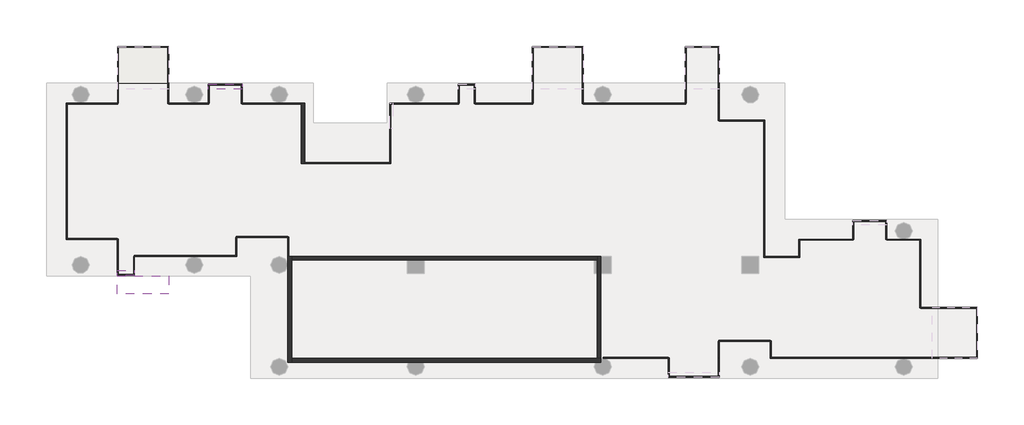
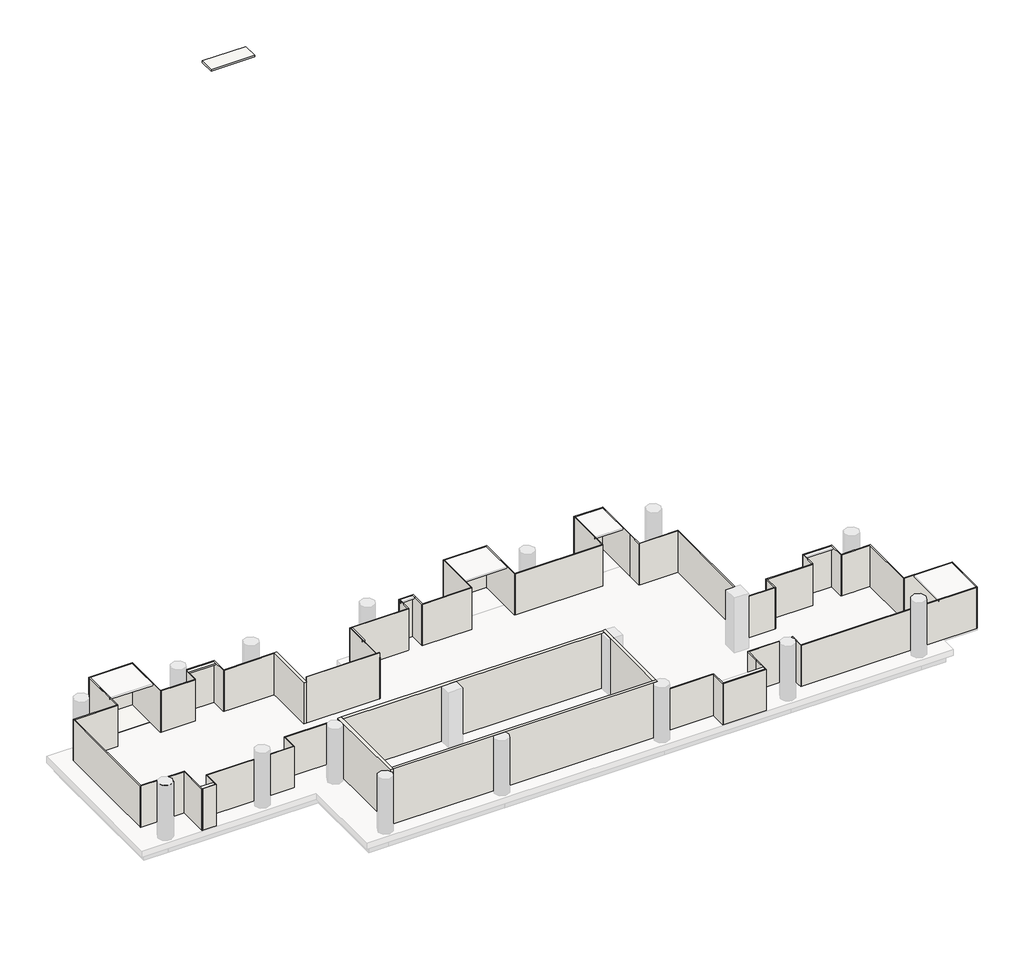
# One storey, part 1 of 2: 58 walls, 7 slabs.
"""IFC4 building model written with IfcOpenShell, lengths in millimetres."""

from ifc_helpers import new_model, si_unit, frame, origin, place, context, project, spatial, polyline, outline, extrude, faceted_brep, element, save

model = new_model("IFC4")

# Units and contexts
model_context = context("Model", 3, world=origin())
ifc_project = project(units=[si_unit("LENGTHUNIT", "METRE", prefix="MILLI")], contexts=[model_context])

# Site, building, storey
site = spatial("IfcSite", under=ifc_project)
building = spatial("IfcBuilding", under=site)
storey = spatial("IfcBuildingStorey", under=building, Name="TW-L 04", Elevation=13599.9999686)

# Slabs
placement = place(None, origin())
element("IfcSlab", 1, ObjectType="AJN-ARC-SLAB-10cm", at=placement, inside=storey, context=model_context, shape_type="SweptSolid", body=[
    extrude(outline(polyline([(106750.0, 39900.0), (104050.0, 39900.0), (104050.0, 41850.0), (106750.0, 41850.0), (106750.0, 39900.0)])), frame((0.0, 0.0, 13499.9999686), z_axis=(0.0, 0.0, 1.0), x_axis=(1.0, 0.0, 0.0)), (0.0, 0.0, 1.0), 100.0),
])
element("IfcSlab", 2, ObjectType="AJN-ARC-SLAB-10cm", at=placement, inside=storey, context=model_context, shape_type="SweptSolid", body=[
    extrude(outline(polyline([(106750.0, 39900.0), (104050.0, 39900.0), (104050.0, 41850.0), (106750.0, 41850.0), (106750.0, 39900.0)])), frame((0.0, 0.0, 13499.9999686), z_axis=(0.0, 0.0, 1.0), x_axis=(1.0, 0.0, 0.0)), (0.0, 0.0, 1.0), 100.0),
])
element("IfcSlab", 3, ObjectType="AJN-ARC-SLAB-10cm", at=placement, inside=storey, context=model_context, shape_type="SweptSolid", body=[
    extrude(outline(polyline([(106750.0, 39900.0), (104050.0, 39900.0), (104050.0, 41850.0), (106750.0, 41850.0), (106750.0, 39900.0)])), frame((0.0, 0.0, 13499.9999686), z_axis=(0.0, 0.0, 1.0), x_axis=(1.0, 0.0, 0.0)), (0.0, 0.0, 1.0), 100.0),
])
element("IfcSlab", 4, ObjectType="AJN-ARC-SLAB-10cm", at=placement, inside=storey, context=model_context, shape_type="SweptSolid", body=[
    extrude(outline(polyline([(106750.0, 39900.0), (104050.0, 39900.0), (104050.0, 41850.0), (106750.0, 41850.0), (106750.0, 39900.0)])), frame((0.0, 0.0, 13499.9999686), z_axis=(0.0, 0.0, 1.0), x_axis=(1.0, 0.0, 0.0)), (0.0, 0.0, 1.0), 100.0),
])
element("IfcSlab", 5, ObjectType="AJN-ARC-SLAB-10cm", at=placement, inside=storey, context=model_context, shape_type="SweptSolid", body=[
    extrude(outline(polyline([(104947.1743518, 29750.0), (104047.1743518, 29750.0), (104047.1743518, 30000.0), (104947.1743518, 30000.0), (104947.1743518, 29750.0)])), frame((0.0, 0.0, 16199.9999686), z_axis=(0.0, 0.0, 1.0), x_axis=(1.0, 0.0, 0.0)), (0.0, 0.0, 1.0), 100.0),
])
element("IfcSlab", 6, ObjectType="AJN-ARC-SLAB-10cm", at=placement, inside=storey, context=model_context, shape_type="SweptSolid", body=[
    extrude(outline(polyline([(110650.0, 39600.0), (108850.0, 39600.0), (108850.0, 39850.0), (110650.0, 39850.0), (110650.0, 39600.0)])), frame((0.0, 0.0, 16199.9999686), z_axis=(0.0, 0.0, 1.0), x_axis=(1.0, 0.0, 0.0)), (0.0, 0.0, 1.0), 100.0),
])
element("IfcSlab", 7, ObjectType="AJN-ARC-SLAB-10cm", at=placement, inside=storey, context=model_context, shape_type="SweptSolid", body=[
    extrude(outline(polyline([(106747.1743518, 28750.0), (104047.1743518, 28750.0), (104047.1743518, 29700.0), (106747.1743518, 29700.0), (106747.1743518, 28750.0)])), frame((0.0, 0.0, 63900.0), z_axis=(0.0, 0.0, 1.0), x_axis=(1.0, 0.0, 0.0)), (0.0, 0.0, 1.0), 100.0),
])

# Walls
element("IfcWall", 8, ObjectType="AJN-ARC-CONCRETE WALL-20cm", at=placement, inside=storey, context=model_context, shape_type="Brep", body=[
    faceted_brep([(113050.0, 30750.0, 17199.9999686), (113050.0, 30750.0, 13599.9999686), (113050.0, 25150.0, 13599.9999686), (113050.0, 25150.0, 17199.9999686), (113250.0, 30750.0, 13599.9999686), (113250.0, 30750.0, 17199.9999686), (113250.0, 30550.0, 17199.9999686), (113250.0, 25350.0, 17199.9999686), (113250.0, 25150.0, 17199.9999686), (113250.0, 25150.0, 13599.9999686), (113250.0, 25350.0, 13599.9999686), (113250.0, 30550.0, 13599.9999686), (113097.1743518, 30750.0, 13599.9999686)], [[[0, 1, 2, 3]], [[4, 5, 6, 7, 8, 9, 10, 11]], [[2, 1, 12, 4, 11, 10, 9]], [[0, 3, 8, 7, 6, 5]], [[3, 2, 9, 8]], [[0, 5, 4, 12, 1]]]),
])
element("IfcWall", 9, ObjectType="AJN-ARC-CONCRETE WALL-20cm", at=placement, inside=storey, context=model_context, shape_type="Brep", body=[
    faceted_brep([(113250.0, 25150.0, 13599.9999686), (119425.8342613, 25150.0, 13599.9999686), (120174.1657387, 25150.0, 13599.9999686), (129325.8342613, 25150.0, 13599.9999686), (129600.0, 25150.0, 13599.9999686), (129600.0, 25150.0, 17199.9999686), (129325.8342613, 25150.0, 17199.9999686), (120174.1657387, 25150.0, 17199.9999686), (119425.8342613, 25150.0, 17199.9999686), (113250.0, 25150.0, 17199.9999686), (113250.0, 25350.0, 13599.9999686), (113250.0, 25350.0, 17199.9999686), (129400.0, 25350.0, 17199.9999686), (129600.0, 25350.0, 17199.9999686), (129600.0, 25350.0, 13599.9999686), (129400.0, 25350.0, 13599.9999686), (129600.0, 25338.7482194, 13599.9999686), (129600.0, 25338.7482194, 17199.9999686)], [[[0, 1, 2, 3, 4, 5, 6, 7, 8, 9]], [[10, 11, 12, 13, 14, 15]], [[4, 3, 2, 1, 0, 10, 15, 14, 16]], [[9, 8, 7, 6, 5, 17, 13, 12, 11]], [[5, 4, 16, 14, 13, 17]], [[0, 9, 11, 10]]]),
])
element("IfcWall", 10, ObjectType="AJN-ARC-CONCRETE WALL-20cm", at=placement, inside=storey, context=model_context, shape_type="Brep", body=[
    faceted_brep([(129600.0, 25350.0, 13599.9999686), (129600.0, 29850.0, 13599.9999686), (129600.0, 30750.0, 13599.9999686), (129600.0, 30750.0, 17199.9999686), (129600.0, 29850.0, 17199.9999686), (129600.0, 25350.0, 17199.9999686), (129400.0, 25350.0, 13599.9999686), (129400.0, 25350.0, 17199.9999686), (129400.0, 29850.0, 17199.9999686), (129400.0, 30550.0, 17199.9999686), (129400.0, 30750.0, 17199.9999686), (129400.0, 30750.0, 13599.9999686), (129400.0, 30550.0, 13599.9999686), (129400.0, 29850.0, 13599.9999686)], [[[0, 1, 2, 3, 4, 5]], [[6, 7, 8, 9, 10, 11, 12, 13]], [[2, 1, 0, 6, 13, 12, 11]], [[5, 4, 3, 10, 9, 8, 7]], [[3, 2, 11, 10]], [[0, 5, 7, 6]]]),
])
element("IfcWall", 11, ObjectType="AJN-ARC-CONCRETE WALL-20cm", at=placement, inside=storey, context=model_context, shape_type="Brep", body=[
    faceted_brep([(129400.0, 30750.0, 13599.9999686), (113250.0, 30750.0, 13599.9999686), (113250.0, 30750.0, 17199.9999686), (129400.0, 30750.0, 17199.9999686), (129400.0, 30550.0, 13599.9999686), (129400.0, 30550.0, 17199.9999686), (129250.0, 30550.0, 17199.9999686), (120250.0, 30550.0, 17199.9999686), (119350.0, 30550.0, 17199.9999686), (113250.0, 30550.0, 17199.9999686), (113250.0, 30550.0, 13599.9999686), (119350.0, 30550.0, 13599.9999686), (120250.0, 30550.0, 13599.9999686), (129250.0, 30550.0, 13599.9999686)], [[[0, 1, 2, 3]], [[4, 5, 6, 7, 8, 9, 10, 11, 12, 13]], [[1, 0, 4, 13, 12, 11, 10]], [[3, 2, 9, 8, 7, 6, 5]], [[0, 3, 5, 4]], [[1, 10, 9, 2]]]),
])
element("IfcWall", 12, ObjectType="AJN-ARC-CONCRETE WALL-20cm", at=placement, inside=storey, context=model_context, shape_type="Brep", body=[
    faceted_brep([(113950.0, 35650.0, 13599.9999686), (113950.0, 38850.001152, 13599.9999686), (113950.0, 38850.001152, 16299.9999686), (113950.0, 35650.0, 16299.9999686), (113750.0, 35650.0, 13599.9999686), (113750.0, 35650.0, 16299.9999686), (113750.0, 38800.0010821, 16299.9999686), (113750.0, 38850.0010821, 16299.9999686), (113750.0, 38850.0010821, 13599.9999686), (113750.0, 38800.0010821, 13599.9999686)], [[[0, 1, 2, 3]], [[4, 5, 6, 7, 8, 9]], [[1, 0, 4, 9, 8]], [[3, 2, 7, 6, 5]], [[0, 3, 5, 4]], [[2, 1, 8, 7]]]),
])
element("IfcWall", 13, ObjectType="AJN-ARC-GLASS-50mm", at=placement, inside=storey, context=model_context, shape_type="SweptSolid", body=[
    extrude(outline(polyline([(110650.0, 38850.0), (113750.0, 38850.0010821), (113750.0, 38800.0010821), (110650.0000175, 38800.0), (110650.0, 38850.0)])), frame((0.0, 0.0, 13599.9999686), z_axis=(0.0, 0.0, 1.0), x_axis=(1.0, 0.0, 0.0)), (0.0, 0.0, 1.0), 2700.0),
])
element("IfcWall", 14, ObjectType="AJN-ARC-GLASS-50mm", at=placement, inside=storey, context=model_context, shape_type="Brep", body=[
    faceted_brep([(110650.0, 38824.9999913, 13599.9999686), (110650.0, 39850.0, 13599.9999686), (110650.0, 39850.0, 16299.9999686), (110650.0, 38824.9999913, 16299.9999686), (110600.0, 38824.9999913, 13599.9999686), (110600.0, 38824.9999913, 16299.9999686), (110600.0, 39800.0, 16299.9999686), (110600.0, 39850.0, 16299.9999686), (110600.0, 39850.0, 13599.9999686), (110600.0, 39800.0, 13599.9999686)], [[[0, 1, 2, 3]], [[4, 5, 6, 7, 8, 9]], [[1, 0, 4, 9, 8]], [[3, 2, 7, 6, 5]], [[0, 3, 5, 4]], [[2, 1, 8, 7]]]),
])
element("IfcWall", 15, ObjectType="AJN-ARC-GLASS-50mm", at=placement, inside=storey, context=model_context, shape_type="Brep", body=[
    faceted_brep([(110600.0, 39850.0, 13599.9999686), (108850.0, 39850.0, 13599.9999686), (108850.0, 39850.0, 16299.9999686), (110600.0, 39850.0, 16299.9999686), (110600.0, 39800.0, 13599.9999686), (110600.0, 39800.0, 16299.9999686), (108900.0, 39800.0, 16299.9999686), (108850.0, 39800.0, 16299.9999686), (108850.0, 39800.0, 13599.9999686), (108900.0, 39800.0, 13599.9999686)], [[[0, 1, 2, 3]], [[4, 5, 6, 7, 8, 9]], [[1, 0, 4, 9, 8]], [[3, 2, 7, 6, 5]], [[2, 1, 8, 7]], [[0, 3, 5, 4]]]),
])
element("IfcWall", 16, ObjectType="AJN-ARC-GLASS-50mm", at=placement, inside=storey, context=model_context, shape_type="SweptSolid", body=[
    extrude(outline(polyline([(108850.0, 38850.0), (108850.0, 39800.0), (108900.0, 39800.0), (108900.0, 38850.0), (108850.0, 38850.0)])), frame((0.0, 0.0, 13599.9999686), z_axis=(0.0, 0.0, 1.0), x_axis=(1.0, 0.0, 0.0)), (0.0, 0.0, 1.0), 2700.0),
])
element("IfcWall", 17, ObjectType="AJN-ARC-GLASS-50mm", at=placement, inside=storey, context=model_context, shape_type="SweptSolid", body=[
    extrude(outline(polyline([(106750.0, 38850.0), (108875.0, 38850.0), (108875.0, 38800.0), (106750.0, 38800.0), (106750.0, 38850.0)])), frame((0.0, 0.0, 13599.9999686), z_axis=(0.0, 0.0, 1.0), x_axis=(1.0, 0.0, 0.0)), (0.0, 0.0, 1.0), 2700.0),
])
element("IfcWall", 18, ObjectType="AJN-ARC-GLASS-50mm", at=placement, inside=storey, context=model_context, shape_type="Brep", body=[
    faceted_brep([(106750.0, 38825.0, 13599.9999686), (106750.0, 41850.0, 13599.9999686), (106750.0, 41850.0, 16299.9999686), (106750.0, 38825.0, 16299.9999686), (106700.0, 38825.0, 13599.9999686), (106700.0, 38825.0, 16299.9999686), (106700.0, 41800.0, 16299.9999686), (106700.0, 41850.0, 16299.9999686), (106700.0, 41850.0, 13599.9999686), (106700.0, 41800.0, 13599.9999686)], [[[0, 1, 2, 3]], [[4, 5, 6, 7, 8, 9]], [[1, 0, 4, 9, 8]], [[3, 2, 7, 6, 5]], [[0, 3, 5, 4]], [[2, 1, 8, 7]]]),
])
element("IfcWall", 19, ObjectType="AJN-ARC-GLASS-50mm", at=placement, inside=storey, context=model_context, shape_type="Brep", body=[
    faceted_brep([(106700.0, 41850.0, 13599.9999686), (104050.0, 41850.0, 13599.9999686), (104050.0, 41850.0, 16299.9999686), (106700.0, 41850.0, 16299.9999686), (106700.0, 41800.0, 13599.9999686), (106700.0, 41800.0, 16299.9999686), (104100.0, 41800.0, 16299.9999686), (104050.0, 41800.0, 16299.9999686), (104050.0, 41800.0, 13599.9999686), (104100.0, 41800.0, 13599.9999686)], [[[0, 1, 2, 3]], [[4, 5, 6, 7, 8, 9]], [[1, 0, 4, 9, 8]], [[3, 2, 7, 6, 5]], [[2, 1, 8, 7]], [[0, 3, 5, 4]]]),
])
element("IfcWall", 20, ObjectType="AJN-ARC-GLASS-50mm", at=placement, inside=storey, context=model_context, shape_type="SweptSolid", body=[
    extrude(outline(polyline([(104050.0, 38850.0), (104050.0, 41800.0), (104100.0, 41800.0), (104100.0, 38850.0), (104050.0, 38850.0)])), frame((0.0, 0.0, 13599.9999686), z_axis=(0.0, 0.0, 1.0), x_axis=(1.0, 0.0, 0.0)), (0.0, 0.0, 1.0), 2700.0),
])
element("IfcWall", 21, ObjectType="AJN-ARC-GLASS-50mm", at=placement, inside=storey, context=model_context, shape_type="Brep", body=[
    faceted_brep([(104075.0000107, 38849.9999893, 13599.9999686), (101347.1743518, 38850.001152, 13599.9999686), (101347.1743518, 38850.001152, 16299.9999686), (104075.0000107, 38849.9999893, 16299.9999686), (104074.9999893, 38799.9999893, 13599.9999686), (104074.9999893, 38799.9999893, 16299.9999686), (101397.1743518, 38800.0011307, 16299.9999686), (101347.1743518, 38800.001152, 16299.9999686), (101347.1743518, 38800.001152, 13599.9999686), (101397.1743518, 38800.0011307, 13599.9999686)], [[[0, 1, 2, 3]], [[4, 5, 6, 7, 8, 9]], [[1, 0, 4, 9, 8]], [[3, 2, 7, 6, 5]], [[0, 3, 5, 4]], [[2, 1, 8, 7]]]),
])
element("IfcWall", 22, ObjectType="AJN-ARC-GLASS-50mm", at=placement, inside=storey, context=model_context, shape_type="Brep", body=[
    faceted_brep([(101347.1743518, 38800.001152, 13599.9999686), (101347.1743518, 31651.0273156, 13599.9999686), (101347.1743518, 31651.0273156, 16299.9999686), (101347.1743518, 38800.001152, 16299.9999686), (101397.1743518, 38800.0011307, 13599.9999686), (101397.1743518, 38800.0011307, 16299.9999686), (101397.1743518, 31701.0273156, 16299.9999686), (101397.1743518, 31651.0273156, 16299.9999686), (101397.1743518, 31651.0273156, 13599.9999686), (101397.1743518, 31701.0273156, 13599.9999686)], [[[0, 1, 2, 3]], [[4, 5, 6, 7, 8, 9]], [[1, 0, 4, 9, 8]], [[3, 2, 7, 6, 5]], [[2, 1, 8, 7]], [[0, 3, 5, 4]]]),
])
element("IfcWall", 23, ObjectType="AJN-ARC-GLASS-50mm", at=placement, inside=storey, context=model_context, shape_type="SweptSolid", body=[
    extrude(outline(polyline([(104047.1743518, 31651.0273156), (101397.1743518, 31651.0273156), (101397.1743518, 31701.0273156), (104047.1743518, 31701.0273156), (104047.1743518, 31651.0273156)])), frame((0.0, 0.0, 13599.9999686), z_axis=(0.0, 0.0, 1.0), x_axis=(1.0, 0.0, 0.0)), (0.0, 0.0, 1.0), 2700.0),
])
element("IfcWall", 24, ObjectType="AJN-ARC-GLASS-50mm", at=placement, inside=storey, context=model_context, shape_type="Brep", body=[
    faceted_brep([(104047.1743518, 31676.0273156, 13599.9999686), (104047.1743518, 29750.0, 13599.9999686), (104047.1743518, 29750.0, 16299.9999686), (104047.1743518, 31676.0273156, 16299.9999686), (104097.1743518, 31676.0273156, 13599.9999686), (104097.1743518, 31676.0273156, 16299.9999686), (104097.1743518, 29800.0, 16299.9999686), (104097.1743518, 29750.0, 16299.9999686), (104097.1743518, 29750.0, 13599.9999686), (104097.1743518, 29800.0, 13599.9999686)], [[[0, 1, 2, 3]], [[4, 5, 6, 7, 8, 9]], [[1, 0, 4, 9, 8]], [[3, 2, 7, 6, 5]], [[0, 3, 5, 4]], [[2, 1, 8, 7]]]),
])
element("IfcWall", 25, ObjectType="AJN-ARC-GLASS-50mm", at=placement, inside=storey, context=model_context, shape_type="Brep", body=[
    faceted_brep([(104097.1743518, 29750.0, 13599.9999686), (104947.1743518, 29750.0, 13599.9999686), (104947.1743518, 29750.0, 16299.9999686), (104097.1743518, 29750.0, 16299.9999686), (104097.1743518, 29800.0, 13599.9999686), (104097.1743518, 29800.0, 16299.9999686), (104897.1743518, 29800.0, 16299.9999686), (104947.1743518, 29800.0, 16299.9999686), (104947.1743518, 29800.0, 13599.9999686), (104897.1743518, 29800.0, 13599.9999686)], [[[0, 1, 2, 3]], [[4, 5, 6, 7, 8, 9]], [[1, 0, 4, 9, 8]], [[3, 2, 7, 6, 5]], [[2, 1, 8, 7]], [[0, 3, 5, 4]]]),
])
element("IfcWall", 26, ObjectType="AJN-ARC-GLASS-50mm", at=placement, inside=storey, context=model_context, shape_type="SweptSolid", body=[
    extrude(outline(polyline([(104947.1743518, 30750.0), (104947.1743518, 29800.0), (104897.1743518, 29800.0), (104897.1743518, 30750.0), (104947.1743518, 30750.0)])), frame((0.0, 0.0, 13599.9999686), z_axis=(0.0, 0.0, 1.0), x_axis=(1.0, 0.0, 0.0)), (0.0, 0.0, 1.0), 2700.0),
])
element("IfcWall", 27, ObjectType="AJN-ARC-GLASS-50mm", at=placement, inside=storey, context=model_context, shape_type="Brep", body=[
    faceted_brep([(104922.1743518, 30750.0, 13599.9999686), (110347.1743518, 30750.0, 13599.9999686), (110347.1743518, 30750.0, 16299.9999686), (104922.1743518, 30750.0, 16299.9999686), (104922.1743518, 30800.0, 13599.9999686), (104922.1743518, 30800.0, 16299.9999686), (110297.1743518, 30800.0, 16299.9999686), (110347.1743518, 30800.0, 16299.9999686), (110347.1743518, 30800.0, 13599.9999686), (110297.1743518, 30800.0, 13599.9999686)], [[[0, 1, 2, 3]], [[4, 5, 6, 7, 8, 9]], [[1, 0, 4, 9, 8]], [[3, 2, 7, 6, 5]], [[0, 3, 5, 4]], [[2, 1, 8, 7]]]),
])
element("IfcWall", 28, ObjectType="AJN-ARC-GLASS-50mm", at=placement, inside=storey, context=model_context, shape_type="SweptSolid", body=[
    extrude(outline(polyline([(110347.1743518, 31750.0), (110347.1743518, 30800.0), (110297.1743518, 30800.0), (110297.1743518, 31750.0), (110347.1743518, 31750.0)])), frame((0.0, 0.0, 13599.9999686), z_axis=(0.0, 0.0, 1.0), x_axis=(1.0, 0.0, 0.0)), (0.0, 0.0, 1.0), 2700.0),
])
element("IfcWall", 29, ObjectType="AJN-ARC-GLASS-50mm", at=placement, inside=storey, context=model_context, shape_type="SweptSolid", body=[
    extrude(outline(polyline([(113047.1743518, 31750.0), (110322.1743518, 31750.0), (110322.1743518, 31800.0), (113047.1743518, 31800.0), (113047.1743518, 31750.0)])), frame((0.0, 0.0, 13599.9999686), z_axis=(0.0, 0.0, 1.0), x_axis=(1.0, 0.0, 0.0)), (0.0, 0.0, 1.0), 2700.0),
])
element("IfcWall", 30, ObjectType="AJN-ARC-GLASS-50mm", at=placement, inside=storey, context=model_context, shape_type="Brep", body=[
    faceted_brep([(113047.1743518, 31775.0, 13599.9999686), (113047.1743518, 30750.0, 13599.9999686), (113047.1743518, 30750.0, 16299.9999686), (113047.1743518, 31775.0, 16299.9999686), (113097.1743518, 31775.0, 13599.9999686), (113097.1743518, 31775.0, 16299.9999686), (113097.1743518, 30750.0, 16299.9999686), (113097.1743518, 30750.0, 13599.9999686), (113050.0, 30750.0, 13599.9999686)], [[[0, 1, 2, 3]], [[4, 5, 6, 7]], [[1, 0, 4, 7, 8]], [[3, 2, 6, 5]], [[0, 3, 5, 4]], [[2, 1, 8, 7, 6]]]),
])
element("IfcWall", 31, ObjectType="AJN-ARC-GLASS-50mm", at=placement, inside=storey, context=model_context, shape_type="Brep", body=[
    faceted_brep([(138250.0, 30700.0, 13599.9999686), (138250.0, 30750.0, 13599.9999686), (138250.0, 37950.0, 13599.9999686), (138250.0, 37950.0, 16299.9999686), (138250.0, 30750.0, 16299.9999686), (138250.0, 30700.0, 16299.9999686), (138200.0, 30700.0, 13599.9999686), (138200.0, 30700.0, 16299.9999686), (138200.0, 37900.0, 16299.9999686), (138200.0, 37950.0, 16299.9999686), (138200.0, 37950.0, 13599.9999686), (138200.0, 37900.0, 13599.9999686)], [[[0, 1, 2, 3, 4, 5]], [[6, 7, 8, 9, 10, 11]], [[2, 1, 0, 6, 11, 10]], [[5, 4, 3, 9, 8, 7]], [[3, 2, 10, 9]], [[0, 5, 7, 6]]]),
])
element("IfcWall", 32, ObjectType="AJN-ARC-GLASS-50mm", at=placement, inside=storey, context=model_context, shape_type="SweptSolid", body=[
    extrude(outline(polyline([(135850.0, 37950.0), (138200.0, 37950.0), (138200.0, 37900.0), (135850.0, 37900.0), (135850.0, 37950.0)])), frame((0.0, 0.0, 13599.9999686), z_axis=(0.0, 0.0, 1.0), x_axis=(1.0, 0.0, 0.0)), (0.0, 0.0, 1.0), 2700.0),
])
element("IfcWall", 33, ObjectType="AJN-ARC-GLASS-50mm", at=placement, inside=storey, context=model_context, shape_type="SweptSolid", body=[
    extrude(outline(polyline([(135850.0, 38850.0), (135850.0, 37925.0), (135800.0, 37925.0), (135800.0, 38850.0), (135850.0, 38850.0)])), frame((0.0, 0.0, 13599.9999686), z_axis=(0.0, 0.0, 1.0), x_axis=(1.0, 0.0, 0.0)), (0.0, 0.0, 1.0), 2700.0),
])
element("IfcWall", 34, ObjectType="AJN-ARC-GLASS-50mm", at=placement, inside=storey, context=model_context, shape_type="Brep", body=[
    faceted_brep([(135850.0, 38850.0, 13599.9999686), (135850.0, 41850.0, 13599.9999686), (135850.0, 41850.0, 16299.9999686), (135850.0, 38850.0, 16299.9999686), (135800.0, 38850.0, 13599.9999686), (135800.0, 38850.0, 16299.9999686), (135800.0, 41800.0, 16299.9999686), (135800.0, 41850.0, 16299.9999686), (135800.0, 41850.0, 13599.9999686), (135800.0, 41800.0, 13599.9999686)], [[[0, 1, 2, 3]], [[4, 5, 6, 7, 8, 9]], [[1, 0, 4, 9, 8]], [[3, 2, 7, 6, 5]], [[0, 3, 5, 4]], [[2, 1, 8, 7]]]),
])
element("IfcWall", 35, ObjectType="AJN-ARC-GLASS-50mm", at=placement, inside=storey, context=model_context, shape_type="Brep", body=[
    faceted_brep([(135800.0, 41850.0, 13599.9999686), (134050.0, 41850.0, 13599.9999686), (134050.0, 41850.0, 16299.9999686), (135800.0, 41850.0, 16299.9999686), (135800.0, 41800.0, 13599.9999686), (135800.0, 41800.0, 16299.9999686), (134100.0, 41800.0, 16299.9999686), (134050.0, 41800.0, 16299.9999686), (134050.0, 41800.0, 13599.9999686), (134100.0, 41800.0, 13599.9999686)], [[[0, 1, 2, 3]], [[4, 5, 6, 7, 8, 9]], [[1, 0, 4, 9, 8]], [[3, 2, 7, 6, 5]], [[2, 1, 8, 7]], [[0, 3, 5, 4]]]),
])
element("IfcWall", 36, ObjectType="AJN-ARC-GLASS-50mm", at=placement, inside=storey, context=model_context, shape_type="SweptSolid", body=[
    extrude(outline(polyline([(134050.0, 38850.0), (134050.0, 41800.0), (134100.0, 41800.0), (134100.0, 38850.0), (134050.0, 38850.0)])), frame((0.0, 0.0, 13599.9999686), z_axis=(0.0, 0.0, 1.0), x_axis=(1.0, 0.0, 0.0)), (0.0, 0.0, 1.0), 2700.0),
])
element("IfcWall", 37, ObjectType="AJN-ARC-GLASS-50mm", at=placement, inside=storey, context=model_context, shape_type="SweptSolid", body=[
    extrude(outline(polyline([(128659.0442395, 38850.0), (134075.0, 38850.0), (134075.0, 38800.0), (128659.0442395, 38800.0), (128659.0442395, 38850.0)])), frame((0.0, 0.0, 13599.9999686), z_axis=(0.0, 0.0, 1.0), x_axis=(1.0, 0.0, 0.0)), (0.0, 0.0, 1.0), 2700.0),
])
element("IfcWall", 38, ObjectType="AJN-ARC-GLASS-50mm", at=placement, inside=storey, context=model_context, shape_type="Brep", body=[
    faceted_brep([(128659.0442395, 38825.0, 13599.9999686), (128659.0442395, 41850.0, 13599.9999686), (128659.0442395, 41850.0, 16299.9999686), (128659.0442395, 38825.0, 16299.9999686), (128609.0442395, 38825.0, 13599.9999686), (128609.0442395, 38825.0, 16299.9999686), (128609.0442395, 41800.0, 16299.9999686), (128609.0442395, 41850.0, 16299.9999686), (128609.0442395, 41850.0, 13599.9999686), (128609.0442395, 41800.0, 13599.9999686)], [[[0, 1, 2, 3]], [[4, 5, 6, 7, 8, 9]], [[1, 0, 4, 9, 8]], [[3, 2, 7, 6, 5]], [[0, 3, 5, 4]], [[2, 1, 8, 7]]]),
])
element("IfcWall", 39, ObjectType="AJN-ARC-GLASS-50mm", at=placement, inside=storey, context=model_context, shape_type="Brep", body=[
    faceted_brep([(128609.0442395, 41850.0, 13599.9999686), (125959.0442395, 41850.0, 13599.9999686), (125959.0442395, 41850.0, 16299.9999686), (128609.0442395, 41850.0, 16299.9999686), (128609.0442395, 41800.0, 13599.9999686), (128609.0442395, 41800.0, 16299.9999686), (126009.0442395, 41800.0, 16299.9999686), (125959.0442395, 41800.0, 16299.9999686), (125959.0442395, 41800.0, 13599.9999686), (126009.0442395, 41800.0, 13599.9999686)], [[[0, 1, 2, 3]], [[4, 5, 6, 7, 8, 9]], [[1, 0, 4, 9, 8]], [[3, 2, 7, 6, 5]], [[2, 1, 8, 7]], [[0, 3, 5, 4]]]),
])
element("IfcWall", 40, ObjectType="AJN-ARC-GLASS-50mm", at=placement, inside=storey, context=model_context, shape_type="SweptSolid", body=[
    extrude(outline(polyline([(125959.0442395, 38850.0), (125959.0442395, 41800.0), (126009.0442395, 41800.0), (126009.0442395, 38850.0), (125959.0442395, 38850.0)])), frame((0.0, 0.0, 13599.9999686), z_axis=(0.0, 0.0, 1.0), x_axis=(1.0, 0.0, 0.0)), (0.0, 0.0, 1.0), 2700.0),
])
element("IfcWall", 41, ObjectType="AJN-ARC-GLASS-50mm", at=placement, inside=storey, context=model_context, shape_type="SweptSolid", body=[
    extrude(outline(polyline([(122950.0, 38850.0), (125984.0442395, 38850.0), (125984.0442395, 38800.0), (122950.0, 38800.0), (122950.0, 38850.0)])), frame((0.0, 0.0, 13599.9999686), z_axis=(0.0, 0.0, 1.0), x_axis=(1.0, 0.0, 0.0)), (0.0, 0.0, 1.0), 2700.0),
])
element("IfcWall", 42, ObjectType="AJN-ARC-GLASS-50mm", at=placement, inside=storey, context=model_context, shape_type="Brep", body=[
    faceted_brep([(122950.0, 38825.0, 13599.9999686), (122950.0, 39850.0, 13599.9999686), (122950.0, 39850.0, 16299.9999686), (122950.0, 38825.0, 16299.9999686), (122900.0, 38825.0, 13599.9999686), (122900.0, 38825.0, 16299.9999686), (122900.0, 39800.0, 16299.9999686), (122900.0, 39850.0, 16299.9999686), (122900.0, 39850.0, 13599.9999686), (122900.0, 39800.0, 13599.9999686)], [[[0, 1, 2, 3]], [[4, 5, 6, 7, 8, 9]], [[1, 0, 4, 9, 8]], [[3, 2, 7, 6, 5]], [[0, 3, 5, 4]], [[2, 1, 8, 7]]]),
])
element("IfcWall", 43, ObjectType="AJN-ARC-GLASS-50mm", at=placement, inside=storey, context=model_context, shape_type="Brep", body=[
    faceted_brep([(122900.0, 39850.0, 13599.9999686), (122050.0, 39850.0, 13599.9999686), (122050.0, 39850.0, 16299.9999686), (122900.0, 39850.0, 16299.9999686), (122900.0, 39800.0, 13599.9999686), (122900.0, 39800.0, 16299.9999686), (122100.0, 39800.0, 16299.9999686), (122050.0, 39800.0, 16299.9999686), (122050.0, 39800.0, 13599.9999686), (122100.0, 39800.0, 13599.9999686)], [[[0, 1, 2, 3]], [[4, 5, 6, 7, 8, 9]], [[1, 0, 4, 9, 8]], [[3, 2, 7, 6, 5]], [[2, 1, 8, 7]], [[0, 3, 5, 4]]]),
])
element("IfcWall", 44, ObjectType="AJN-ARC-GLASS-50mm", at=placement, inside=storey, context=model_context, shape_type="SweptSolid", body=[
    extrude(outline(polyline([(122050.0, 38850.0), (122050.0, 39800.0), (122100.0, 39800.0), (122100.0, 38850.0), (122050.0, 38850.0)])), frame((0.0, 0.0, 13599.9999686), z_axis=(0.0, 0.0, 1.0), x_axis=(1.0, 0.0, 0.0)), (0.0, 0.0, 1.0), 2700.0),
])
element("IfcWall", 45, ObjectType="AJN-ARC-GLASS-50mm", at=placement, inside=storey, context=model_context, shape_type="Brep", body=[
    faceted_brep([(122075.0, 38850.0, 13599.9999686), (118450.0, 38850.0, 13599.9999686), (118450.0, 38850.0, 16299.9999686), (122075.0, 38850.0, 16299.9999686), (122075.0, 38800.0, 13599.9999686), (122075.0, 38800.0, 16299.9999686), (118500.0, 38800.0, 16299.9999686), (118450.0, 38800.0, 16299.9999686), (118450.0, 38800.0, 13599.9999686), (118500.0, 38800.0, 13599.9999686)], [[[0, 1, 2, 3]], [[4, 5, 6, 7, 8, 9]], [[1, 0, 4, 9, 8]], [[3, 2, 7, 6, 5]], [[0, 3, 5, 4]], [[2, 1, 8, 7]]]),
])
element("IfcWall", 46, ObjectType="AJN-ARC-GLASS-50mm", at=placement, inside=storey, context=model_context, shape_type="SweptSolid", body=[
    extrude(outline(polyline([(133156.3136949, 25350.0), (129714.068817, 25350.0), (129714.068817, 25400.0), (133156.3136949, 25400.0), (133156.3136949, 25350.0)])), frame((0.0, 0.0, 13599.9999686), z_axis=(0.0, 0.0, 1.0), x_axis=(1.0, 0.0, 0.0)), (0.0, 0.0, 1.0), 2700.0),
])
element("IfcWall", 47, ObjectType="AJN-ARC-GLASS-50mm", at=placement, inside=storey, context=model_context, shape_type="Brep", body=[
    faceted_brep([(133156.3136949, 25375.0, 13599.9999686), (133156.3136949, 24350.0, 13599.9999686), (133156.3136949, 24350.0, 16299.9999686), (133156.3136949, 25375.0, 16299.9999686), (133206.3136949, 25375.0, 13599.9999686), (133206.3136949, 25375.0, 16299.9999686), (133206.3136949, 24400.0, 16299.9999686), (133206.3136949, 24350.0, 16299.9999686), (133206.3136949, 24350.0, 13599.9999686), (133206.3136949, 24400.0, 13599.9999686)], [[[0, 1, 2, 3]], [[4, 5, 6, 7, 8, 9]], [[1, 0, 4, 9, 8]], [[3, 2, 7, 6, 5]], [[0, 3, 5, 4]], [[2, 1, 8, 7]]]),
])
element("IfcWall", 48, ObjectType="AJN-ARC-GLASS-50mm", at=placement, inside=storey, context=model_context, shape_type="Brep", body=[
    faceted_brep([(133206.3136949, 24350.0, 13599.9999686), (135856.3136949, 24350.0, 13599.9999686), (135856.3136949, 24350.0, 16299.9999686), (133206.3136949, 24350.0, 16299.9999686), (133206.3136949, 24400.0, 13599.9999686), (133206.3136949, 24400.0, 16299.9999686), (135806.3136949, 24400.0, 16299.9999686), (135856.3136949, 24400.0, 16299.9999686), (135856.3136949, 24400.0, 13599.9999686), (135806.3136949, 24400.0, 13599.9999686)], [[[0, 1, 2, 3]], [[4, 5, 6, 7, 8, 9]], [[1, 0, 4, 9, 8]], [[3, 2, 7, 6, 5]], [[2, 1, 8, 7]], [[0, 3, 5, 4]]]),
])
element("IfcWall", 49, ObjectType="AJN-ARC-GLASS-50mm", at=placement, inside=storey, context=model_context, shape_type="SweptSolid", body=[
    extrude(outline(polyline([(135856.3136949, 25350.0), (135856.3136949, 24400.0), (135806.3136949, 24400.0), (135806.3136949, 25350.0), (135856.3136949, 25350.0)])), frame((0.0, 0.0, 13599.9999686), z_axis=(0.0, 0.0, 1.0), x_axis=(1.0, 0.0, 0.0)), (0.0, 0.0, 1.0), 2700.0),
])
element("IfcWall", 50, ObjectType="AJN-ARC-GLASS-50mm", at=placement, inside=storey, context=model_context, shape_type="SweptSolid", body=[
    extrude(outline(polyline([(135856.3136949, 26250.0), (135856.3136949, 25350.0), (135806.3136949, 25350.0), (135806.3136949, 26250.0), (135856.3136949, 26250.0)])), frame((0.0, 0.0, 13599.9999686), z_axis=(0.0, 0.0, 1.0), x_axis=(1.0, 0.0, 0.0)), (0.0, 0.0, 1.0), 2700.0),
])
element("IfcWall", 51, ObjectType="AJN-ARC-GLASS-50mm", at=placement, inside=storey, context=model_context, shape_type="SweptSolid", body=[
    extrude(outline(polyline([(138556.3136949, 26250.0), (135831.3136949, 26250.0), (135831.3136949, 26300.0), (138556.3136949, 26300.0), (138556.3136949, 26250.0)])), frame((0.0, 0.0, 13599.9999686), z_axis=(0.0, 0.0, 1.0), x_axis=(1.0, 0.0, 0.0)), (0.0, 0.0, 1.0), 2700.0),
])
element("IfcWall", 52, ObjectType="AJN-ARC-GLASS-50mm", at=placement, inside=storey, context=model_context, shape_type="Brep", body=[
    faceted_brep([(138556.3136949, 26275.0, 13599.9999686), (138556.3136949, 25350.0, 13599.9999686), (138556.3136949, 25350.0, 16299.9999686), (138556.3136949, 26275.0, 16299.9999686), (138606.3136949, 26275.0, 13599.9999686), (138606.3136949, 26275.0, 16299.9999686), (138606.3136949, 25400.0, 16299.9999686), (138606.3136949, 25350.0, 16299.9999686), (138606.3136949, 25350.0, 13599.9999686), (138606.3136949, 25400.0, 13599.9999686)], [[[0, 1, 2, 3]], [[4, 5, 6, 7, 8, 9]], [[1, 0, 4, 9, 8]], [[3, 2, 7, 6, 5]], [[0, 3, 5, 4]], [[2, 1, 8, 7]]]),
])
element("IfcWall", 53, ObjectType="AJN-ARC-GLASS-50mm", at=placement, inside=storey, context=model_context, shape_type="SweptSolid", body=[
    extrude(outline(polyline([(149446.9011724, 25350.0), (138606.3136949, 25350.0), (138606.3136949, 25400.0), (149446.9011724, 25400.0), (149446.9011724, 25350.0)])), frame((0.0, 0.0, 13599.9999686), z_axis=(0.0, 0.0, 1.0), x_axis=(1.0, 0.0, 0.0)), (0.0, 0.0, 1.0), 2700.0),
])
element("IfcWall", 54, ObjectType="AJN-ARC-GLASS-50mm", at=placement, inside=storey, context=model_context, shape_type="Brep", body=[
    faceted_brep([(149496.9011724, 25350.0, 13599.9999686), (149496.9011724, 28051.6697397, 13599.9999686), (149496.9011724, 28051.6697397, 16299.9999686), (149496.9011724, 25350.0, 16299.9999686), (149446.9011724, 25350.0, 13599.9999686), (149446.9011724, 25350.0, 16299.9999686), (149446.9011724, 25400.0, 16299.9999686), (149446.9011724, 28001.6697397, 16299.9999686), (149446.9011724, 28051.6697397, 16299.9999686), (149446.9011724, 28051.6697397, 13599.9999686), (149446.9011724, 28001.6697397, 13599.9999686), (149446.9011724, 25400.0, 13599.9999686)], [[[0, 1, 2, 3]], [[4, 5, 6, 7, 8, 9, 10, 11]], [[1, 0, 4, 11, 10, 9]], [[3, 2, 8, 7, 6, 5]], [[2, 1, 9, 8]], [[0, 3, 5, 4]]]),
])
element("IfcWall", 55, ObjectType="AJN-ARC-GLASS-50mm", at=placement, inside=storey, context=model_context, shape_type="SweptSolid", body=[
    extrude(outline(polyline([(146497.681474, 28051.6697397), (149446.9011724, 28051.6697397), (149446.9011724, 28001.6697397), (146497.681474, 28001.6697397), (146497.681474, 28051.6697397)])), frame((0.0, 0.0, 13599.9999686), z_axis=(0.0, 0.0, 1.0), x_axis=(1.0, 0.0, 0.0)), (0.0, 0.0, 1.0), 2700.0),
])
element("IfcWall", 56, ObjectType="AJN-ARC-GLASS-50mm", at=placement, inside=storey, context=model_context, shape_type="Brep", body=[
    faceted_brep([(146497.681474, 28026.6697397, 13599.9999686), (146497.681474, 31651.6593424, 13599.9999686), (146497.681474, 31651.6593424, 16299.9999686), (146497.681474, 28026.6697397, 16299.9999686), (146447.681474, 28026.6697397, 13599.9999686), (146447.681474, 28026.6697397, 16299.9999686), (146447.681474, 31601.6593424, 16299.9999686), (146447.681474, 31651.6593424, 16299.9999686), (146447.681474, 31651.6593424, 13599.9999686), (146447.681474, 31601.6593424, 13599.9999686)], [[[0, 1, 2, 3]], [[4, 5, 6, 7, 8, 9]], [[1, 0, 4, 9, 8]], [[3, 2, 7, 6, 5]], [[0, 3, 5, 4]], [[2, 1, 8, 7]]]),
])
element("IfcWall", 57, ObjectType="AJN-ARC-GLASS-50mm", at=placement, inside=storey, context=model_context, shape_type="Brep", body=[
    faceted_brep([(146447.681474, 31651.6593424, 13599.9999686), (145638.6089983, 31651.6593424, 13599.9999686), (145561.3910017, 31651.6593424, 13599.9999686), (144697.779898, 31651.6593424, 13599.9999686), (144697.779898, 31651.6593424, 16299.9999686), (145561.3910017, 31651.6593424, 16299.9999686), (145638.6089983, 31651.6593424, 16299.9999686), (146447.681474, 31651.6593424, 16299.9999686), (146447.681474, 31601.6593424, 13599.9999686), (146447.681474, 31601.6593424, 16299.9999686), (144697.779898, 31601.6593424, 16299.9999686), (144697.779898, 31601.6593424, 13599.9999686)], [[[0, 1, 2, 3, 4, 5, 6, 7]], [[8, 9, 10, 11]], [[3, 2, 1, 0, 8, 11]], [[4, 3, 11, 10]], [[7, 6, 5, 4, 10, 9]], [[0, 7, 9, 8]]]),
])
element("IfcWall", 58, ObjectType="AJN-ARC-GLASS-50mm", at=placement, inside=storey, context=model_context, shape_type="Brep", body=[
    faceted_brep([(144697.779898, 31626.6593424, 13599.9999686), (144697.779898, 32651.6593424, 13599.9999686), (144697.779898, 32651.6593424, 16299.9999686), (144697.779898, 31626.6593424, 16299.9999686), (144647.779898, 31626.6593424, 13599.9999686), (144647.779898, 31626.6593424, 16299.9999686), (144647.779898, 32601.6593424, 16299.9999686), (144647.779898, 32651.6593424, 16299.9999686), (144647.779898, 32651.6593424, 13599.9999686), (144647.779898, 32601.6593424, 13599.9999686)], [[[0, 1, 2, 3]], [[4, 5, 6, 7, 8, 9]], [[1, 0, 4, 9, 8]], [[3, 2, 7, 6, 5]], [[0, 3, 5, 4]], [[2, 1, 8, 7]]]),
])
element("IfcWall", 59, ObjectType="AJN-ARC-GLASS-50mm", at=placement, inside=storey, context=model_context, shape_type="Brep", body=[
    faceted_brep([(144647.779898, 32651.6593424, 13599.9999686), (142897.779898, 32651.6593424, 13599.9999686), (142897.779898, 32651.6593424, 16299.9999686), (144647.779898, 32651.6593424, 16299.9999686), (144647.779898, 32601.6593424, 13599.9999686), (144647.779898, 32601.6593424, 16299.9999686), (142947.779898, 32601.6593424, 16299.9999686), (142897.779898, 32601.6593424, 16299.9999686), (142897.779898, 32601.6593424, 13599.9999686), (142947.779898, 32601.6593424, 13599.9999686)], [[[0, 1, 2, 3]], [[4, 5, 6, 7, 8, 9]], [[1, 0, 4, 9, 8]], [[3, 2, 7, 6, 5]], [[2, 1, 8, 7]], [[0, 3, 5, 4]]]),
])
element("IfcWall", 60, ObjectType="AJN-ARC-GLASS-50mm", at=placement, inside=storey, context=model_context, shape_type="SweptSolid", body=[
    extrude(outline(polyline([(142897.779898, 31651.6593424), (142897.779898, 32601.6593424), (142947.779898, 32601.6593424), (142947.779898, 31651.6593424), (142897.779898, 31651.6593424)])), frame((0.0, 0.0, 13599.9999686), z_axis=(0.0, 0.0, 1.0), x_axis=(1.0, 0.0, 0.0)), (0.0, 0.0, 1.0), 2700.0),
])
element("IfcWall", 61, ObjectType="AJN-ARC-GLASS-50mm", at=placement, inside=storey, context=model_context, shape_type="Brep", body=[
    faceted_brep([(142922.779898, 31651.6593424, 13599.9999686), (140050.0, 31651.6593424, 13599.9999686), (140050.0, 31651.6593424, 16299.9999686), (142922.779898, 31651.6593424, 16299.9999686), (142922.779898, 31601.6593424, 13599.9999686), (142922.779898, 31601.6593424, 16299.9999686), (140100.0, 31601.6593424, 16299.9999686), (140050.0, 31601.6593424, 16299.9999686), (140050.0, 31601.6593424, 13599.9999686), (140100.0, 31601.6593424, 13599.9999686)], [[[0, 1, 2, 3]], [[4, 5, 6, 7, 8, 9]], [[1, 0, 4, 9, 8]], [[3, 2, 7, 6, 5]], [[0, 3, 5, 4]], [[2, 1, 8, 7]]]),
])
element("IfcWall", 62, ObjectType="AJN-ARC-GLASS-50mm", at=placement, inside=storey, context=model_context, shape_type="Brep", body=[
    faceted_brep([(140050.0, 31601.6593424, 13599.9999686), (140050.0, 30750.0, 13599.9999686), (140050.0, 30700.0, 13599.9999686), (140050.0, 30700.0, 16299.9999686), (140050.0, 30750.0, 16299.9999686), (140050.0, 31601.6593424, 16299.9999686), (140100.0, 31601.6593424, 13599.9999686), (140100.0, 31601.6593424, 16299.9999686), (140100.0, 30700.0, 16299.9999686), (140100.0, 30700.0, 13599.9999686)], [[[0, 1, 2, 3, 4, 5]], [[6, 7, 8, 9]], [[2, 1, 0, 6, 9]], [[5, 4, 3, 8, 7]], [[0, 5, 7, 6]], [[3, 2, 9, 8]]]),
])
element("IfcWall", 63, ObjectType="AJN-ARC-GLASS-50mm", at=placement, inside=storey, context=model_context, shape_type="SweptSolid", body=[
    extrude(outline(polyline([(138250.0, 30750.0), (140050.0, 30750.0), (140050.0, 30700.0), (138250.0, 30700.0), (138250.0, 30750.0)])), frame((0.0, 0.0, 13599.9999686), z_axis=(0.0, 0.0, 1.0), x_axis=(1.0, 0.0, 0.0)), (0.0, 0.0, 1.0), 2700.0),
])
element("IfcWall", 64, ObjectType="AJN-ARC-GLASS-50mm", at=placement, inside=storey, context=model_context, shape_type="SweptSolid", body=[
    extrude(outline(polyline([(118450.0, 35650.0), (118450.0, 38800.0), (118500.0, 38800.0), (118500.0, 35650.0), (118450.0, 35650.0)])), frame((0.0, 0.0, 13599.9999686), z_axis=(0.0, 0.0, 1.0), x_axis=(1.0, 0.0, 0.0)), (0.0, 0.0, 1.0), 2700.0),
])
element("IfcWall", 65, ObjectType="AJN-ARC-GLASS-50mm", at=placement, inside=storey, context=model_context, shape_type="SweptSolid", body=[
    extrude(outline(polyline([(118450.0, 35650.0), (113950.0, 35650.0), (113950.0, 35700.0), (118450.0, 35700.0), (118450.0, 35650.0)])), frame((0.0, 0.0, 13599.9999686), z_axis=(0.0, 0.0, 1.0), x_axis=(1.0, 0.0, 0.0)), (0.0, 0.0, 1.0), 3000.0),
])

save(model, "model.ifc")
